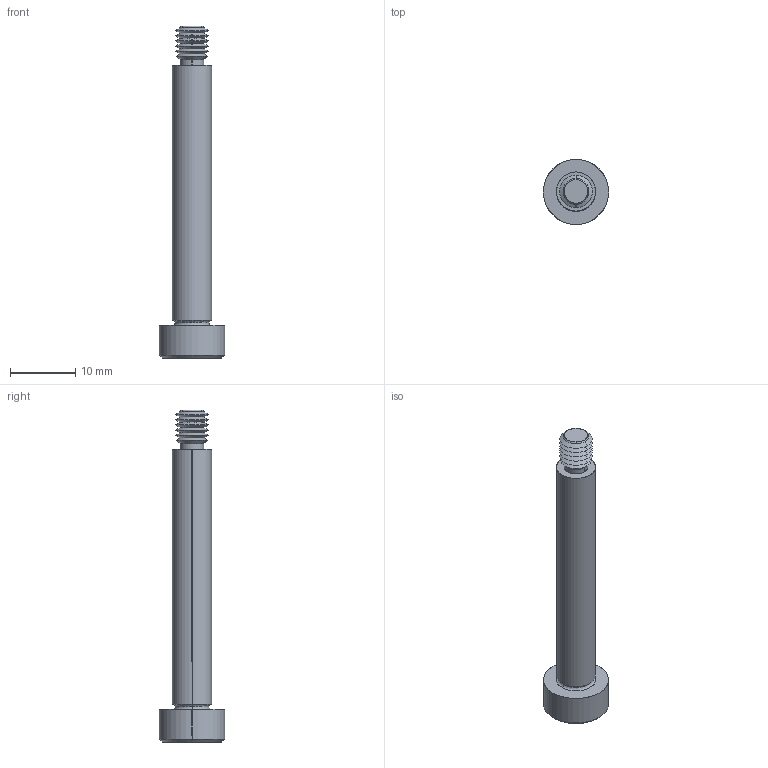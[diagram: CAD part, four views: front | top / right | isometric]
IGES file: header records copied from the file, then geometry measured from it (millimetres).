
Start section: SolidWorks IGES file using analytic representation for surfaces
Global section: file name: C:\Users\IanO\Documents\Temp Folder\GENERAL\SCREW REVISION\P0130_v2\P0130.T5_v2_20220106_IGES\P0130.060-040-T5.igs; native system: SolidWorks 2019; preprocessor: SolidWorks 2019; author: IanO; date: 220106.222616; units: millimetre
Bounding box: 10 x 10 x 51 mm (x, y, z)
Surface area: 1241.5 mm2 (no closed solid volume)
Topology: 0 solids, 0 shells, 64 faces, 504 edges, 502 vertices
Faces by surface type: revolution 44, bspline 20
